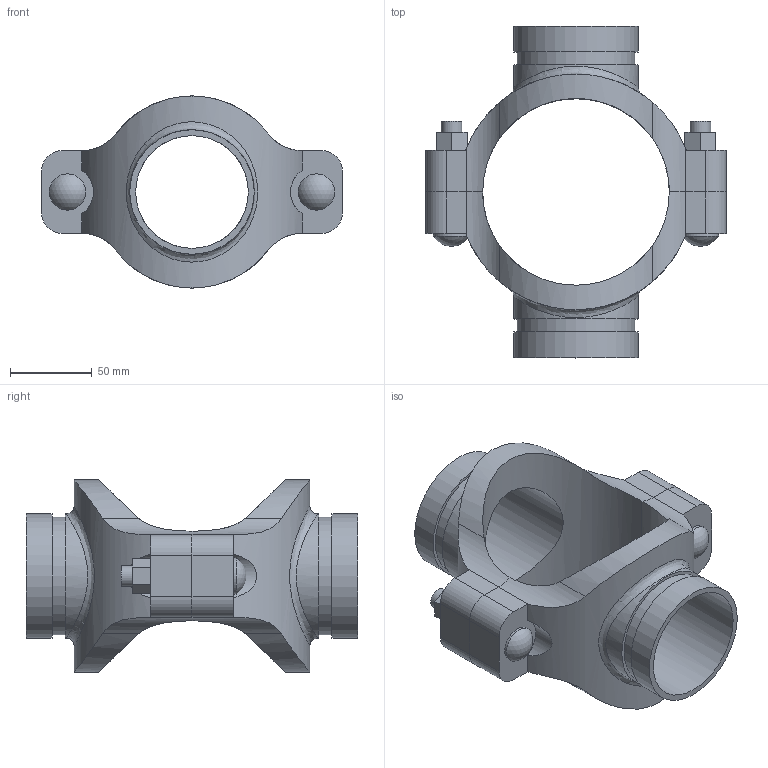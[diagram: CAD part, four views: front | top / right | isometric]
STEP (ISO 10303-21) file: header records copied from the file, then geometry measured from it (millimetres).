
FILE_DESCRIPTION(/* description */ ('VIC MECH-T BRANCH OUTLET CROSS STYLE 920N (GRVD)','CAx-IF Rec.Pracs.---Representation and Presentation of Product Manufacturing Information (PMI)---4.0---2014-10-13'),/* implementation_level */ '2;1');
FILE_NAME(/* name */ 'C:\Users\Vjadhav\AppData\Roaming\Autodesk\ApplicationPlugins\Back Up\Victaulic_IPS_Mechanical-Cross Outlet_Style 920N (OGS)\Victaulic_IPS_Mechanical-Cross Outlet_04.0x02.5 (76.1)x02.5 (76.1) (100x65x65).stp',/* time_stamp */ '2020-08-06T19:43:57+05:00',/* author */ ('Vjadhav'),/* organization */ ('Victaulic'),/* preprocessor_version */ 'ST-DEVELOPER v17.2',/* originating_system */ 'Autodesk Inventor 2019',/* authorisation */ '');
FILE_SCHEMA (('AP242_MANAGED_MODEL_BASED_3D_ENGINEERING_MIM_LF { 1 0 10303 442 1 1 4 }'));
Length unit declared in the file: inch
Products named in the file (3): 920NG-04.0x02.5 (76.1)x02.5 (76.1); 920G-04.0x02.5 (76.1); 920G-04.0x02.5 (76.1)_1
Assembly tree (2 placements, depth 2):
  920NG-04.0x02.5 (76.1)x02.5 (76.1)
    920G-04.0x02.5 (76.1)
    920G-04.0x02.5 (76.1)_1
Bounding box: 184.15 x 203.2 x 117.6 mm (x, y, z)
Volume: 519844.8 mm3; surface area: 130093 mm2
Topology: 2 solids, 2 shells, 108 faces, 274 edges, 186 vertices
Faces by surface type: plane 54, cylinder 50, sphere 2, bspline 2
Full cylindrical faces by diameter (mm): 12.7 x4, 22.225 x2, 68.986 x2, 72.263 x2, 76.2 x4
Entity records: 4486 total; most frequent: CARTESIAN_POINT 1605, DIRECTION 552, ORIENTED_EDGE 548, EDGE_CURVE 274, AXIS2_PLACEMENT_3D 201, VERTEX_POINT 186, LINE 150, VECTOR 150
